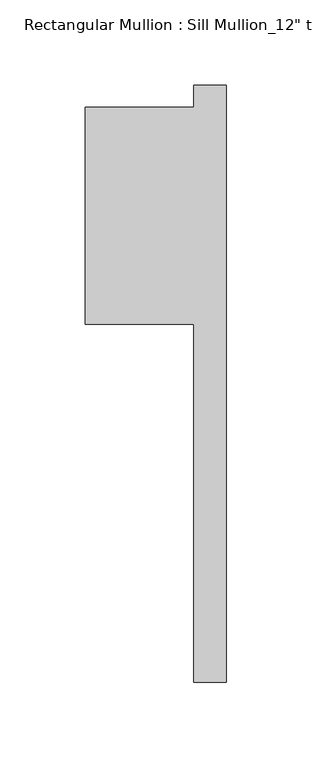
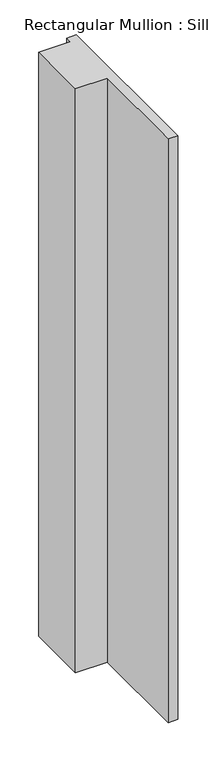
"""IFC4 building model written with IfcOpenShell, lengths in millimetres: member geometry."""

import ifcopenshell
import ifcopenshell.guid

model = None  # the IFC model being written
_history = None  # IfcOwnerHistory: only IFC2X3 demands one
_inside = {}  # id of a spatial element -> (the spatial element, [elements in it])
_under = {}  # id of a project, library or spatial element -> (it, [spatial elements below it])
_declared = {}  # id of a project -> (the project, [libraries it declares])
_typed = {}  # id of a type object -> (the type object, [elements of that type])
_made_of = {}  # id of a material, layer set ... -> (it, [elements and type objects made of it])


def new_model(schema):
    """Start an empty IFC model of exactly this schema.

    Asked for "IFC4X3", IfcOpenShell would pick the latest addendum, in which some entities
    have other attributes; the version numbers below select the first issue.
    IFC2X3 requires an IfcOwnerHistory on every rooted entity: one is made here for all.
    """
    global model, _history
    if schema == "IFC4X3":
        model = ifcopenshell.file(schema_version=(4, 3, 0, 0))
    else:
        model = ifcopenshell.file(schema=schema)
    _inside.clear()
    _under.clear()
    _declared.clear()
    _typed.clear()
    _made_of.clear()
    _history = None
    if model.schema == "IFC2X3":
        org = make("IfcOrganization", Name="unknown")
        user = make(
            "IfcPersonAndOrganization",
            ThePerson=make("IfcPerson", FamilyName="unknown"),
            TheOrganization=org,
        )
        app = make(
            "IfcApplication",
            ApplicationDeveloper=org,
            Version="unknown",
            ApplicationFullName="unknown",
            ApplicationIdentifier="unknown",
        )
        _history = make(
            "IfcOwnerHistory",
            OwningUser=user,
            OwningApplication=app,
            ChangeAction="ADDED",
            CreationDate=0,
        )
    return model


def make(cls, **values):
    """One entity of the class cls with the attributes given. An attribute that is None is left unset."""
    return model.create_entity(
        cls, **{name: value for name, value in values.items() if value is not None}
    )


def rooted(cls, **values):
    """An entity with a GlobalId (a new one), such as an element, a storey or a relation."""
    return make(cls, GlobalId=ifcopenshell.guid.new(), OwnerHistory=_history, **values)


def si_unit(unit_type, name, prefix=None):
    """IfcSIUnit, for example si_unit("LENGTHUNIT", "METRE", prefix="MILLI")."""
    return make("IfcSIUnit", UnitType=unit_type, Prefix=prefix, Name=name)


def assignment(units):
    """IfcUnitAssignment: the units of a project."""
    return None if units is None else make("IfcUnitAssignment", Units=units)


def point(xyz):
    """IfcCartesianPoint."""
    return None if xyz is None else make("IfcCartesianPoint", Coordinates=xyz)


def direction(xyz):
    """IfcDirection."""
    return None if xyz is None else make("IfcDirection", DirectionRatios=xyz)


def frame(location, z_axis=None, x_axis=None):
    """IfcAxis2Placement3D, a coordinate frame: its origin and axes. An axis left out is left unset."""
    return make(
        "IfcAxis2Placement3D",
        Location=point(location),
        Axis=direction(z_axis),
        RefDirection=direction(x_axis),
    )


def origin():
    """The frame at (0, 0, 0) with its axes left unset."""
    return frame((0.0, 0.0, 0.0))


def place(relative_to, where):
    """IfcLocalPlacement: puts the frame where relative to a parent placement (None: the world)."""
    return make(
        "IfcLocalPlacement", PlacementRelTo=relative_to, RelativePlacement=where
    )


def context(
    kind, dimensions, precision=None, world=None, true_north=None, identifier=None
):
    """IfcGeometricRepresentationContext, for example the 3D "Model" context."""
    return make(
        "IfcGeometricRepresentationContext",
        ContextIdentifier=identifier,
        ContextType=kind,
        CoordinateSpaceDimension=dimensions,
        Precision=precision,
        WorldCoordinateSystem=world,
        TrueNorth=true_north,
    )


def project(units=None, contexts=None):
    """IfcProject with its units and contexts."""
    return rooted(
        "IfcProject",
        Name="project",
        RepresentationContexts=contexts,
        UnitsInContext=assignment(units),
    )


def spatial(cls, under=None, at=None, **own):
    """A site, building, storey or space (cls), placed at a placement, below another one or the project."""
    s = rooted(cls, ObjectPlacement=at, **own)
    if under is not None:
        _under.setdefault(under.id(), (under, []))[1].append(s)
    return s


def polyline(points):
    """IfcPolyline through the points."""
    return make("IfcPolyline", Points=[point(p) for p in points])


def outline(outer, holes=None, kind="AREA"):
    """IfcArbitraryClosedProfileDef: a profile drawn as a closed curve; with holes, ...WithVoids."""
    if holes is None:
        return make("IfcArbitraryClosedProfileDef", ProfileType=kind, OuterCurve=outer)
    return make(
        "IfcArbitraryProfileDefWithVoids",
        ProfileType=kind,
        OuterCurve=outer,
        InnerCurves=holes,
    )


def extrude(swept, where, along, depth):
    """IfcExtrudedAreaSolid: the profile swept, set in the frame where, extruded along a direction by depth."""
    return make(
        "IfcExtrudedAreaSolid",
        SweptArea=swept,
        Position=where,
        ExtrudedDirection=direction(along),
        Depth=depth,
    )


def shape(context_of_items, identifier, shape_type, items):
    """IfcShapeRepresentation: the items that make up one representation, for example the "Body"."""
    return make(
        "IfcShapeRepresentation",
        ContextOfItems=context_of_items,
        RepresentationIdentifier=identifier,
        RepresentationType=shape_type,
        Items=items,
    )


def source(mapping_origin, context_of_items, identifier, shape_type, items):
    """IfcRepresentationMap: a shape defined once, which mapped items show again and again."""
    return make(
        "IfcRepresentationMap",
        MappingOrigin=mapping_origin,
        MappedRepresentation=shape(context_of_items, identifier, shape_type, items),
    )


def transform(
    local_origin,
    x_axis=None,
    y_axis=None,
    z_axis=None,
    scale=None,
    scale2=None,
    scale3=None,
    uniform=True,
):
    """IfcCartesianTransformationOperator3D, or its non-uniform kind. x_axis, y_axis, z_axis: its Axis1, 2, 3."""
    if uniform:
        return make(
            "IfcCartesianTransformationOperator3D",
            Axis1=direction(x_axis),
            Axis2=direction(y_axis),
            LocalOrigin=point(local_origin),
            Scale=scale,
            Axis3=direction(z_axis),
        )
    return make(
        "IfcCartesianTransformationOperator3DnonUniform",
        Axis1=direction(x_axis),
        Axis2=direction(y_axis),
        LocalOrigin=point(local_origin),
        Scale=scale,
        Axis3=direction(z_axis),
        Scale2=scale2,
        Scale3=scale3,
    )


def mapped(mapping_source, mapping_target):
    """IfcMappedItem: shows the shape of a source again, moved by a transform."""
    return make(
        "IfcMappedItem", MappingSource=mapping_source, MappingTarget=mapping_target
    )


def made_of(thing, what):
    """Note that an element or type object is made of a material, layer set ...; save() writes the relation."""
    if what is not None:
        _made_of.setdefault(what.id(), (what, []))[1].append(thing)
    return thing


def element(
    cls,
    number,
    at=None,
    inside=None,
    cuts=None,
    type_object=None,
    material=None,
    context=None,
    identifier="Body",
    shape_type=None,
    held_by="IfcProductDefinitionShape",
    body=None,
    shapes=None,
    **own,
):
    """One element of the class cls, such as IfcWall. Its Tag is "e" and its number.

    at: its placement. inside: the storey or other place that contains it. cuts: it is an
    opening in that element (IfcRelVoidsElement). A single representation is given by context,
    identifier, shape_type and body (its items); several are given by shapes. held_by: the class
    of the entity that holds the representations. save() writes the other relations.
    """
    e = rooted(cls, Tag="e%d" % number, ObjectPlacement=at, **own)
    if body is not None:
        shapes = [shape(context, identifier, shape_type, body)]
    if shapes is not None:
        e.Representation = make(held_by, Representations=shapes)
    if inside is not None:
        _inside.setdefault(inside.id(), (inside, []))[1].append(e)
    if cuts is not None:
        rooted(
            "IfcRelVoidsElement", RelatingBuildingElement=cuts, RelatedOpeningElement=e
        )
    if type_object is not None:
        _typed.setdefault(type_object.id(), (type_object, []))[1].append(e)
    return made_of(e, material)


def aggregate(whole, parts):
    """IfcRelAggregates: a whole, such as a stair, and the parts it consists of."""
    return rooted("IfcRelAggregates", RelatingObject=whole, RelatedObjects=parts)


def save(model, path):
    """Write the relations noted so far, then the file.

    IfcRelAggregates (storeys below a building ...), IfcRelContainedInSpatialStructure (elements
    in a storey), IfcRelDefinesByType, IfcRelAssociatesMaterial and IfcRelDeclares: one each for
    every whole, place, type object, material and project.
    """
    for whole, parts in _under.values():
        aggregate(whole, parts)
    for where, things in _inside.values():
        rooted(
            "IfcRelContainedInSpatialStructure",
            RelatedElements=things,
            RelatingStructure=where,
        )
    for kind, things in _typed.values():
        rooted("IfcRelDefinesByType", RelatedObjects=things, RelatingType=kind)
    for what, things in _made_of.values():
        rooted("IfcRelAssociatesMaterial", RelatedObjects=things, RelatingMaterial=what)
    for by, libraries in _declared.values():
        rooted("IfcRelDeclares", RelatingContext=by, RelatedDefinitions=libraries)
    model.write(path)


def member_d72eea0e(model_context):
    return source(origin(), model_context, "Body", "SweptSolid", [
        extrude(outline(polyline([(-82.55, -50.8), (-82.55, 76.2), (-19.05, 76.2), (-19.05, 88.9), (0.0, 88.9), (0.0, -260.35), (-19.05, -260.35), (-19.05, -50.8), (-82.55, -50.8)])), frame((0.0, 0.0, -1228.725), z_axis=(0.0, 0.0, 1.0), x_axis=(1.0, 0.0, 0.0)), (0.0, 0.0, 1.0), 1228.725),
    ])


if __name__ == "__main__":
    model = new_model("IFC4")
    model_context = context("Model", 3, world=origin())
    ifc_project = project(units=[si_unit("LENGTHUNIT", "METRE", prefix="MILLI")], contexts=[model_context])
    site = spatial("IfcSite", under=ifc_project)
    building = spatial("IfcBuilding", under=site)
    placement = place(None, origin())
    member_shape = member_d72eea0e(model_context)
    element("IfcMember", 1, ObjectType="Rectangular Mullion : Sill Mullion_12\" thick wall", at=placement, inside=building, context=model_context, shape_type="MappedRepresentation", body=[
        mapped(member_shape, transform((0.0, 0.0, 0.0), x_axis=(1.0, 0.0, 0.0), y_axis=(0.0, 1.0, 0.0), z_axis=(0.0, 0.0, 1.0))),
    ])
    save(model, "model.ifc")
